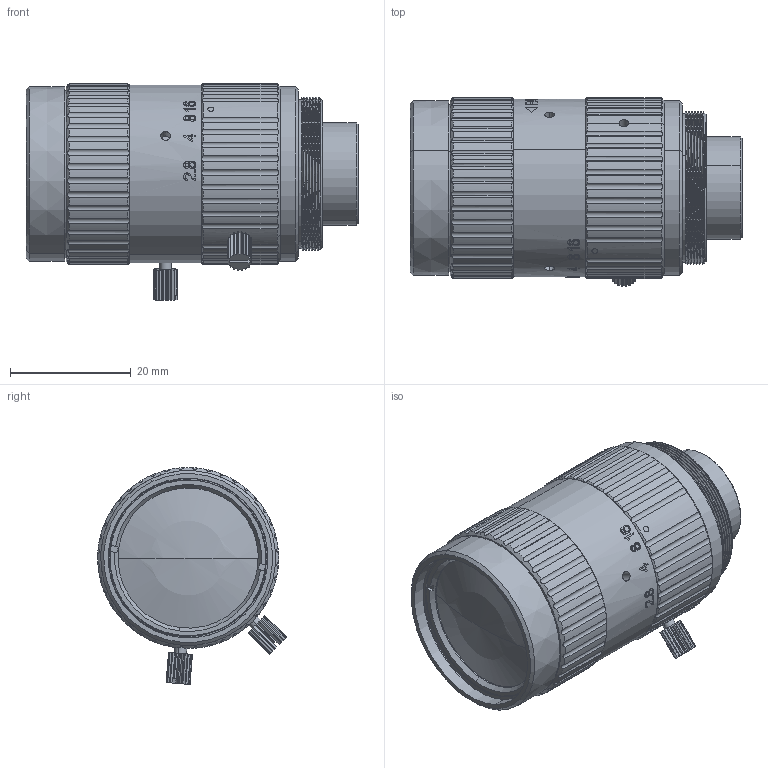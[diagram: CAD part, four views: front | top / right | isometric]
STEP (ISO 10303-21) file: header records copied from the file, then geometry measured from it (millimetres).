
FILE_DESCRIPTION (( 'STEP AP203' ), '1' );
FILE_NAME ('16mm蚾饜极.STEP', '2022-08-16T03:22:44', ( '' ), ( '' ), 'SwSTEP 2.0', 'SolidWorks 2020', '' );
FILE_SCHEMA (( 'CONFIG_CONTROL_DESIGN' ));
Length unit declared in the file: millimetre
Products named in the file (15): 絳杶; G8; 16mm嫖擊遠; 16mm翋噩芠; 16mm蚾饜极; 蹟隊; 絳隊; 16mmヶ噩芠; 2瘍脣种; 16mm擄蝴遠; 后压圈; ǰѹȦ; 嫖擊絳隊; G1; 16mm蟀諉釱
Assembly tree (17 placements, depth 2):
  16mm蚾饜极
    16mmヶ噩芠
    16mm嫖擊遠
    16mm擄蝴遠
    16mm蟀諉釱
    16mm翋噩芠
    嫖擊絳隊
    G1
    G8
    ǰѹȦ
    后压圈
    絳隊
    絳杶
    蹟隊  x3
    2瘍脣种  x2
Bounding box: 55.04 x 31.29 x 35.95 mm (x, y, z)
Volume: 17874.5 mm3; surface area: 28900.7 mm2
Topology: 18 solids, 18 shells, 1502 faces, 3972 edges, 2589 vertices
Faces by surface type: cylinder 696, plane 387, bspline 245, cone 166, sphere 8
Entity records: 82995 total; most frequent: CARTESIAN_POINT 50309, ORIENTED_EDGE 7354, DIRECTION 5361, EDGE_CURVE 3677, VERTEX_POINT 2399, AXIS2_PLACEMENT_3D 2100, EDGE_LOOP 1530, ADVANCED_FACE 1396
